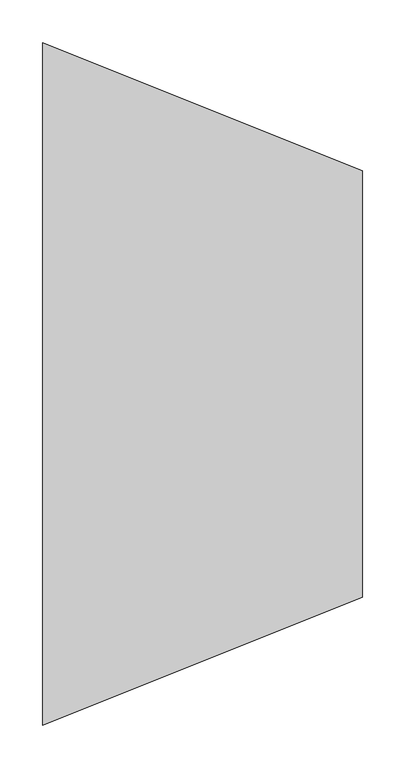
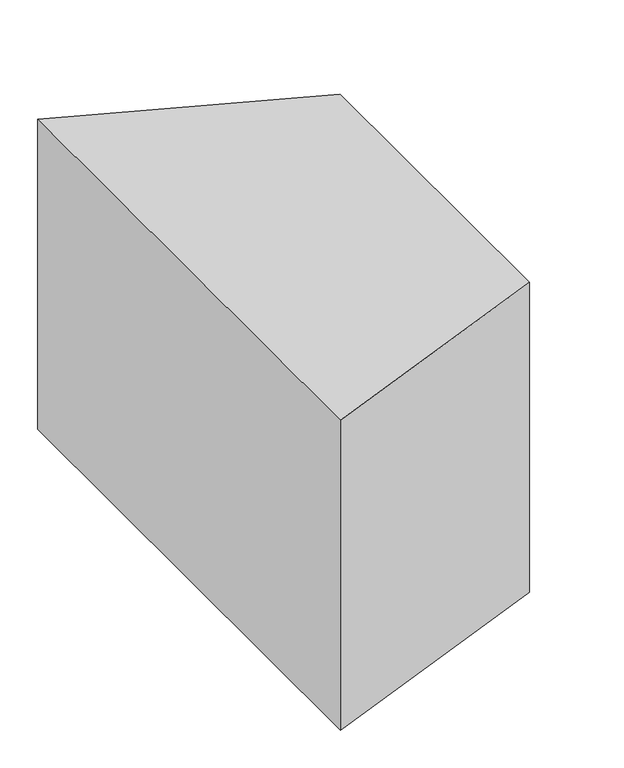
"""IFC4 building model written with IfcOpenShell, lengths in millimetres: duct fitting geometry, ADSK_ПереходникВоздуховодов_Прямоугольный : Стандартное."""

from ifc_helpers import new_model, si_unit, origin, place, context, project, spatial, faceted_brep, source, transform, mapped, element, save


def duct_fitting_4277a799(model_context):
    return source(origin(), model_context, "Body", "Brep", [
        faceted_brep([(375.0, -250.0, 250.0031465), (375.0, -250.0, -249.9968535), (375.0, 250.0, -249.9968535), (375.0, 250.0, 250.0031465), (0.0, -400.0, 250.0), (0.0, 400.0, 250.0), (0.0, 400.0, -250.0), (0.0, -400.0, -250.0)], [[[0, 1, 2, 3]], [[4, 5, 6, 7]], [[4, 7, 1, 0]], [[7, 6, 2, 1]], [[6, 5, 3, 2]], [[5, 4, 0, 3]]]),
    ])


if __name__ == "__main__":
    model = new_model("IFC4")
    model_context = context("Model", 3, world=origin())
    ifc_project = project(units=[si_unit("LENGTHUNIT", "METRE", prefix="MILLI")], contexts=[model_context])
    site = spatial("IfcSite", under=ifc_project)
    building = spatial("IfcBuilding", under=site)
    placement = place(None, origin())
    duct_fitting_shape = duct_fitting_4277a799(model_context)
    element("IfcDuctFitting", 1, ObjectType="ADSK_ПереходникВоздуховодов_Прямоугольный : Стандартное", at=placement, inside=building, context=model_context, shape_type="MappedRepresentation", body=[
        mapped(duct_fitting_shape, transform((0.0, 0.0, 0.0), x_axis=(1.0, 0.0, 0.0), y_axis=(0.0, 1.0, 0.0), z_axis=(0.0, 0.0, 1.0))),
    ])
    save(model, "model.ifc")
